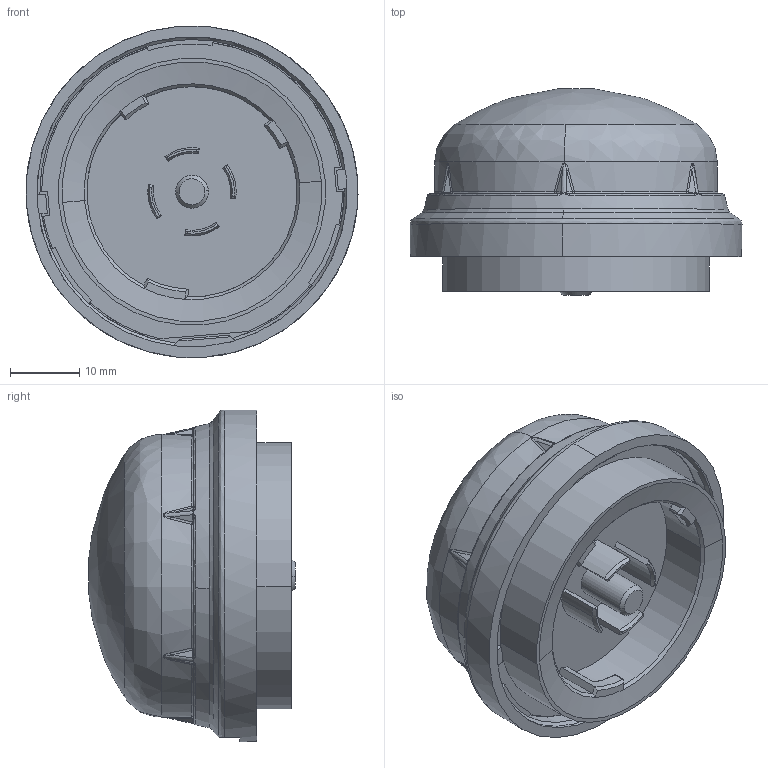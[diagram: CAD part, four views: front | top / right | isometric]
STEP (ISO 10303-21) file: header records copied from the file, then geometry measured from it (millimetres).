
FILE_DESCRIPTION (( 'STEP AP203' ), '1' );
FILE_NAME ('WA400BJA8.STEP', '2024-05-02T04:25:52', ( '' ), ( '' ), 'SwSTEP 2.0', 'SolidWorks 2013', '' );
FILE_SCHEMA (( 'CONFIG_CONTROL_DESIGN' ));
Length unit declared in the file: millimetre
Products named in the file (1): WA400BJA8
Bounding box: 47.99 x 29.85 x 47.92 mm (x, y, z)
Volume: 30240.4 mm3; surface area: 8312.8 mm2
Topology: 1 solids, 1 shells, 314 faces, 795 edges, 476 vertices
Faces by surface type: bspline 133, plane 89, cylinder 64, cone 28
Entity records: 17599 total; most frequent: CARTESIAN_POINT 11189, ORIENTED_EDGE 1568, DIRECTION 1012, EDGE_CURVE 784, VERTEX_POINT 476, AXIS2_PLACEMENT_3D 387, EDGE_LOOP 324, ADVANCED_FACE 314
